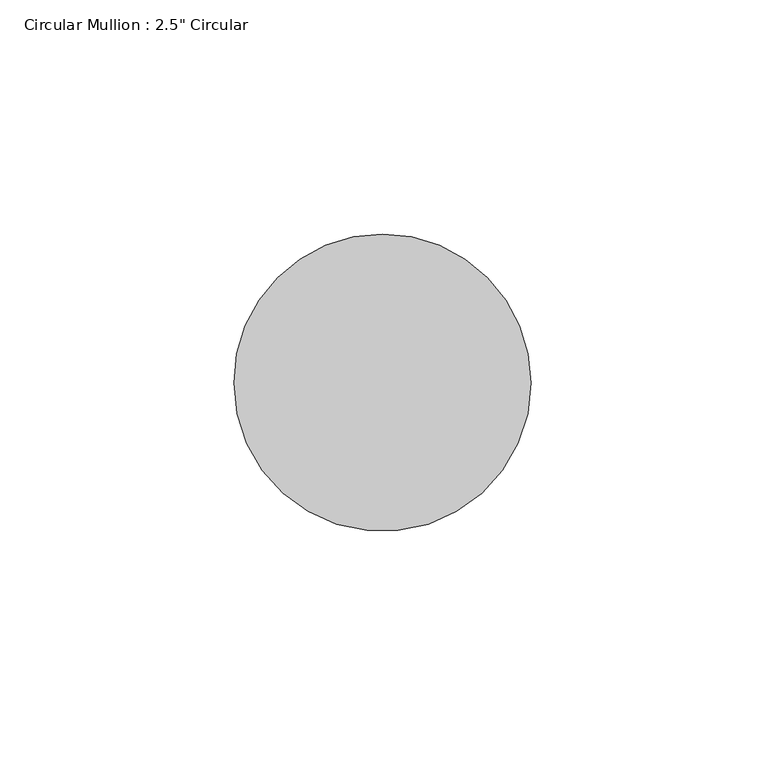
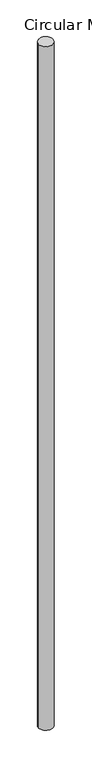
"""IFC4 building model written with IfcOpenShell, lengths in millimetres: member geometry."""

import ifcopenshell
import ifcopenshell.guid

model = None  # the IFC model being written
_history = None  # IfcOwnerHistory: only IFC2X3 demands one
_inside = {}  # id of a spatial element -> (the spatial element, [elements in it])
_under = {}  # id of a project, library or spatial element -> (it, [spatial elements below it])
_declared = {}  # id of a project -> (the project, [libraries it declares])
_typed = {}  # id of a type object -> (the type object, [elements of that type])
_made_of = {}  # id of a material, layer set ... -> (it, [elements and type objects made of it])


def new_model(schema):
    """Start an empty IFC model of exactly this schema.

    Asked for "IFC4X3", IfcOpenShell would pick the latest addendum, in which some entities
    have other attributes; the version numbers below select the first issue.
    IFC2X3 requires an IfcOwnerHistory on every rooted entity: one is made here for all.
    """
    global model, _history
    if schema == "IFC4X3":
        model = ifcopenshell.file(schema_version=(4, 3, 0, 0))
    else:
        model = ifcopenshell.file(schema=schema)
    _inside.clear()
    _under.clear()
    _declared.clear()
    _typed.clear()
    _made_of.clear()
    _history = None
    if model.schema == "IFC2X3":
        org = make("IfcOrganization", Name="unknown")
        user = make(
            "IfcPersonAndOrganization",
            ThePerson=make("IfcPerson", FamilyName="unknown"),
            TheOrganization=org,
        )
        app = make(
            "IfcApplication",
            ApplicationDeveloper=org,
            Version="unknown",
            ApplicationFullName="unknown",
            ApplicationIdentifier="unknown",
        )
        _history = make(
            "IfcOwnerHistory",
            OwningUser=user,
            OwningApplication=app,
            ChangeAction="ADDED",
            CreationDate=0,
        )
    return model


def make(cls, **values):
    """One entity of the class cls with the attributes given. An attribute that is None is left unset."""
    return model.create_entity(
        cls, **{name: value for name, value in values.items() if value is not None}
    )


def rooted(cls, **values):
    """An entity with a GlobalId (a new one), such as an element, a storey or a relation."""
    return make(cls, GlobalId=ifcopenshell.guid.new(), OwnerHistory=_history, **values)


def si_unit(unit_type, name, prefix=None):
    """IfcSIUnit, for example si_unit("LENGTHUNIT", "METRE", prefix="MILLI")."""
    return make("IfcSIUnit", UnitType=unit_type, Prefix=prefix, Name=name)


def assignment(units):
    """IfcUnitAssignment: the units of a project."""
    return None if units is None else make("IfcUnitAssignment", Units=units)


def point(xyz):
    """IfcCartesianPoint."""
    return None if xyz is None else make("IfcCartesianPoint", Coordinates=xyz)


def direction(xyz):
    """IfcDirection."""
    return None if xyz is None else make("IfcDirection", DirectionRatios=xyz)


def frame(location, z_axis=None, x_axis=None):
    """IfcAxis2Placement3D, a coordinate frame: its origin and axes. An axis left out is left unset."""
    return make(
        "IfcAxis2Placement3D",
        Location=point(location),
        Axis=direction(z_axis),
        RefDirection=direction(x_axis),
    )


def origin():
    """The frame at (0, 0, 0) with its axes left unset."""
    return frame((0.0, 0.0, 0.0))


def place(relative_to, where):
    """IfcLocalPlacement: puts the frame where relative to a parent placement (None: the world)."""
    return make(
        "IfcLocalPlacement", PlacementRelTo=relative_to, RelativePlacement=where
    )


def context(
    kind, dimensions, precision=None, world=None, true_north=None, identifier=None
):
    """IfcGeometricRepresentationContext, for example the 3D "Model" context."""
    return make(
        "IfcGeometricRepresentationContext",
        ContextIdentifier=identifier,
        ContextType=kind,
        CoordinateSpaceDimension=dimensions,
        Precision=precision,
        WorldCoordinateSystem=world,
        TrueNorth=true_north,
    )


def project(units=None, contexts=None):
    """IfcProject with its units and contexts."""
    return rooted(
        "IfcProject",
        Name="project",
        RepresentationContexts=contexts,
        UnitsInContext=assignment(units),
    )


def spatial(cls, under=None, at=None, **own):
    """A site, building, storey or space (cls), placed at a placement, below another one or the project."""
    s = rooted(cls, ObjectPlacement=at, **own)
    if under is not None:
        _under.setdefault(under.id(), (under, []))[1].append(s)
    return s


def ellipse_curve(where, semi_axis1, semi_axis2):
    """IfcEllipse in the frame where."""
    return make(
        "IfcEllipse", Position=where, SemiAxis1=semi_axis1, SemiAxis2=semi_axis2
    )


def shape(context_of_items, identifier, shape_type, items):
    """IfcShapeRepresentation: the items that make up one representation, for example the "Body"."""
    return make(
        "IfcShapeRepresentation",
        ContextOfItems=context_of_items,
        RepresentationIdentifier=identifier,
        RepresentationType=shape_type,
        Items=items,
    )


def source(mapping_origin, context_of_items, identifier, shape_type, items):
    """IfcRepresentationMap: a shape defined once, which mapped items show again and again."""
    return make(
        "IfcRepresentationMap",
        MappingOrigin=mapping_origin,
        MappedRepresentation=shape(context_of_items, identifier, shape_type, items),
    )


def transform(
    local_origin,
    x_axis=None,
    y_axis=None,
    z_axis=None,
    scale=None,
    scale2=None,
    scale3=None,
    uniform=True,
):
    """IfcCartesianTransformationOperator3D, or its non-uniform kind. x_axis, y_axis, z_axis: its Axis1, 2, 3."""
    if uniform:
        return make(
            "IfcCartesianTransformationOperator3D",
            Axis1=direction(x_axis),
            Axis2=direction(y_axis),
            LocalOrigin=point(local_origin),
            Scale=scale,
            Axis3=direction(z_axis),
        )
    return make(
        "IfcCartesianTransformationOperator3DnonUniform",
        Axis1=direction(x_axis),
        Axis2=direction(y_axis),
        LocalOrigin=point(local_origin),
        Scale=scale,
        Axis3=direction(z_axis),
        Scale2=scale2,
        Scale3=scale3,
    )


def mapped(mapping_source, mapping_target):
    """IfcMappedItem: shows the shape of a source again, moved by a transform."""
    return make(
        "IfcMappedItem", MappingSource=mapping_source, MappingTarget=mapping_target
    )


def made_of(thing, what):
    """Note that an element or type object is made of a material, layer set ...; save() writes the relation."""
    if what is not None:
        _made_of.setdefault(what.id(), (what, []))[1].append(thing)
    return thing


def element(
    cls,
    number,
    at=None,
    inside=None,
    cuts=None,
    type_object=None,
    material=None,
    context=None,
    identifier="Body",
    shape_type=None,
    held_by="IfcProductDefinitionShape",
    body=None,
    shapes=None,
    **own,
):
    """One element of the class cls, such as IfcWall. Its Tag is "e" and its number.

    at: its placement. inside: the storey or other place that contains it. cuts: it is an
    opening in that element (IfcRelVoidsElement). A single representation is given by context,
    identifier, shape_type and body (its items); several are given by shapes. held_by: the class
    of the entity that holds the representations. save() writes the other relations.
    """
    e = rooted(cls, Tag="e%d" % number, ObjectPlacement=at, **own)
    if body is not None:
        shapes = [shape(context, identifier, shape_type, body)]
    if shapes is not None:
        e.Representation = make(held_by, Representations=shapes)
    if inside is not None:
        _inside.setdefault(inside.id(), (inside, []))[1].append(e)
    if cuts is not None:
        rooted(
            "IfcRelVoidsElement", RelatingBuildingElement=cuts, RelatedOpeningElement=e
        )
    if type_object is not None:
        _typed.setdefault(type_object.id(), (type_object, []))[1].append(e)
    return made_of(e, material)


def aggregate(whole, parts):
    """IfcRelAggregates: a whole, such as a stair, and the parts it consists of."""
    return rooted("IfcRelAggregates", RelatingObject=whole, RelatedObjects=parts)


def save(model, path):
    """Write the relations noted so far, then the file.

    IfcRelAggregates (storeys below a building ...), IfcRelContainedInSpatialStructure (elements
    in a storey), IfcRelDefinesByType, IfcRelAssociatesMaterial and IfcRelDeclares: one each for
    every whole, place, type object, material and project.
    """
    for whole, parts in _under.values():
        aggregate(whole, parts)
    for where, things in _inside.values():
        rooted(
            "IfcRelContainedInSpatialStructure",
            RelatedElements=things,
            RelatingStructure=where,
        )
    for kind, things in _typed.values():
        rooted("IfcRelDefinesByType", RelatedObjects=things, RelatingType=kind)
    for what, things in _made_of.values():
        rooted("IfcRelAssociatesMaterial", RelatedObjects=things, RelatingMaterial=what)
    for by, libraries in _declared.values():
        rooted("IfcRelDeclares", RelatingContext=by, RelatedDefinitions=libraries)
    model.write(path)


def plane_surface(at):
    """IfcPlane: the flat surface through the origin of the frame at, square to its z axis."""
    return make("IfcPlane", Position=at)


def cylinder_surface(at, radius):
    """IfcCylindricalSurface: all points at the distance radius from the z axis of the frame at."""
    return make("IfcCylindricalSurface", Position=at, Radius=radius)


def advanced_brep(points, edges, surfaces, faces):
    """IfcAdvancedBrep: a solid bounded by faces that lie on surfaces and meet in shared edges.

    An edge is (start, end): straight between two places in points (the first is 0);
    or (start, end, curve); or (start, end, curve, False) where it runs against its curve.
    A face is (place in surfaces, loops), or (place, loops, False) where it looks against
    its surface's normal. A loop lists edges by number (the first is 1), with a minus sign
    where the edge is run from its end to its start. The first loop is the outer one.
    """
    corners = [point(p) for p in points]
    vertices = [make("IfcVertexPoint", VertexGeometry=c) for c in corners]
    made = []
    for start, end, *more in edges:
        made.append(
            make(
                "IfcEdgeCurve",
                EdgeStart=vertices[start],
                EdgeEnd=vertices[end],
                EdgeGeometry=more[0] if more else make("IfcPolyline", Points=[corners[start], corners[end]]),
                SameSense=more[1] if len(more) > 1 else True,
            )
        )
    hull = []
    for where, loops, *sense in faces:
        bounds = []
        for j, loop in enumerate(loops):
            ring = [make("IfcOrientedEdge", EdgeElement=made[abs(k) - 1], Orientation=k > 0) for k in loop]
            bounds.append(
                make(
                    "IfcFaceOuterBound" if j == 0 else "IfcFaceBound",
                    Bound=make("IfcEdgeLoop", EdgeList=ring),
                    Orientation=True,
                )
            )
        hull.append(make("IfcAdvancedFace", Bounds=bounds, FaceSurface=surfaces[where], SameSense=sense[0] if sense else True))
    return make("IfcAdvancedBrep", Outer=make("IfcClosedShell", CfsFaces=hull))


def member_826e21f9(model_context):
    return source(origin(), model_context, "Body", "AdvancedBrep", [
        advanced_brep(
        [(-63.5, 0.0, -1.4614973), (0.0, 0.0, 0.0), (0.0, 0.0, -3251.5497732), (-63.5, 0.0, -3249.3741825)],
        [
            (0, 1, ellipse_curve(frame((-31.75, 0.0, -0.7307486), z_axis=(0.022972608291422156, 0.056689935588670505, -0.9981275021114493), x_axis=(0.37486428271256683, 0.9250596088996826, 0.06116771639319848)), 31.8095633, 31.75)),
            (1, 2),
            (2, 3, ellipse_curve(frame((-31.75, 0.0, -3250.4619778), z_axis=(0.03410740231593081, 0.08830955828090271, 0.9955089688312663), x_axis=(-0.35866908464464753, -0.9286520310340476, 0.09466727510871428)), 31.8932335, 31.75)),
            (3, 0),
            (1, 0, ellipse_curve(frame((-31.75, 0.0, -0.7307486), z_axis=(0.022972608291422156, 0.056689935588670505, -0.9981275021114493), x_axis=(0.37486428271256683, 0.9250596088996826, 0.06116771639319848)), 31.8095633, 31.75)),
            (3, 2, ellipse_curve(frame((-31.75, 0.0, -3250.4619778), z_axis=(0.03410740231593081, 0.08830955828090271, 0.9955089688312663), x_axis=(-0.35866908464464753, -0.9286520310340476, 0.09466727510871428)), 31.8932335, 31.75)),
        ],
        [
            cylinder_surface(frame((-31.75, 0.0, 0.0), z_axis=(0.0, 0.0, 1.0), x_axis=(1.0, 0.0, 0.0)), 31.75),
            plane_surface(frame((282.4871253, -114.4729838, 0.0), z_axis=(-0.022972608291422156, -0.056689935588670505, 0.9981275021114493), x_axis=(-0.37486428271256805, -0.9250596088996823, -0.06116771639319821))),
            plane_surface(frame((284.3300743, -109.8155219, -3251.5497732), z_axis=(-0.03410740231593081, -0.08830955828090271, -0.9955089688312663), x_axis=(-0.3586690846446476, -0.9286520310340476, 0.09466727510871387))),
        ],
        [
            (0, [[1, 2, 3, 4]]),
            (0, [[5, -4, 6, -2]]),
            (1, [[-1, -5]]),
            (2, [[-6, -3]]),
        ],
    ),
    ])


if __name__ == "__main__":
    model = new_model("IFC4")
    model_context = context("Model", 3, world=origin())
    ifc_project = project(units=[si_unit("LENGTHUNIT", "METRE", prefix="MILLI")], contexts=[model_context])
    site = spatial("IfcSite", under=ifc_project)
    building = spatial("IfcBuilding", under=site)
    placement = place(None, origin())
    member_shape = member_826e21f9(model_context)
    element("IfcMember", 1, ObjectType="Circular Mullion : 2.5\" Circular", at=placement, inside=building, context=model_context, shape_type="MappedRepresentation", body=[
        mapped(member_shape, transform((0.0, 0.0, 0.0), x_axis=(1.0, 0.0, 0.0), y_axis=(0.0, 1.0, 0.0), z_axis=(0.0, 0.0, 1.0))),
    ])
    save(model, "model.ifc")
